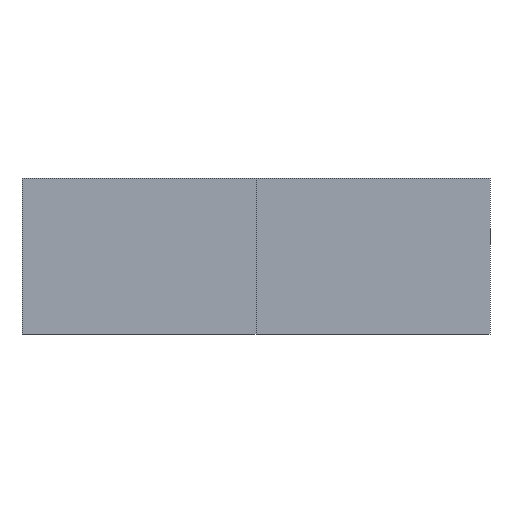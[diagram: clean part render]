
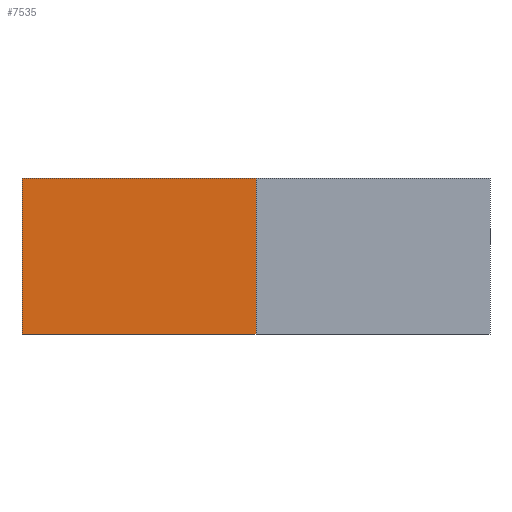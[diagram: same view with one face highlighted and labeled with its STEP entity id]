
A CAD part, front view. The second image highlights one B-rep face of the part: STEP entity #7535.
In plain terms, the highlighted planar face has unit normal (0, -1, 0).
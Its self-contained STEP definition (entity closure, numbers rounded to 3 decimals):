
#819=FACE_OUTER_BOUND('',#1243,.T.);
#1243=EDGE_LOOP('',(#5080,#5081,#5082,#5083));
#1784=LINE('',#10630,#2479);
#1785=LINE('',#10632,#2480);
#1786=LINE('',#10634,#2481);
#1787=LINE('',#10635,#2482);
#2479=VECTOR('',#8716,10.);
#2480=VECTOR('',#8717,10.);
#2481=VECTOR('',#8718,10.);
#2482=VECTOR('',#8719,10.);
#3168=VERTEX_POINT('',#10628);
#3169=VERTEX_POINT('',#10629);
#3170=VERTEX_POINT('',#10631);
#3171=VERTEX_POINT('',#10633);
#3927=EDGE_CURVE('',#3168,#3169,#1784,.T.);
#3928=EDGE_CURVE('',#3170,#3169,#1785,.T.);
#3929=EDGE_CURVE('',#3171,#3170,#1786,.T.);
#3930=EDGE_CURVE('',#3171,#3168,#1787,.T.);
#5080=ORIENTED_EDGE('',*,*,#3927,.T.);
#5081=ORIENTED_EDGE('',*,*,#3928,.F.);
#5082=ORIENTED_EDGE('',*,*,#3929,.F.);
#5083=ORIENTED_EDGE('',*,*,#3930,.T.);
#7312=PLANE('',#8057);
#7535=ADVANCED_FACE('',(#819),#7312,.T.);
#8057=AXIS2_PLACEMENT_3D('',#10627,#8714,#8715);
#8714=DIRECTION('center_axis',(0.,-1.,0.));
#8715=DIRECTION('ref_axis',(-1.,0.,0.));
#8716=DIRECTION('',(1.,0.,0.));
#8717=DIRECTION('',(0.,0.,-1.));
#8718=DIRECTION('',(1.,0.,0.));
#8719=DIRECTION('',(0.,0.,-1.));
#10627=CARTESIAN_POINT('Origin',(30.,0.,20.));
#10628=CARTESIAN_POINT('',(0.,0.,0.));
#10629=CARTESIAN_POINT('',(30.,0.,0.));
#10630=CARTESIAN_POINT('',(22.5,0.,0.));
#10631=CARTESIAN_POINT('',(30.,0.,20.));
#10632=CARTESIAN_POINT('',(30.,0.,20.));
#10633=CARTESIAN_POINT('',(0.,0.,20.));
#10634=CARTESIAN_POINT('',(0.,0.,20.));
#10635=CARTESIAN_POINT('',(0.,0.,20.));
